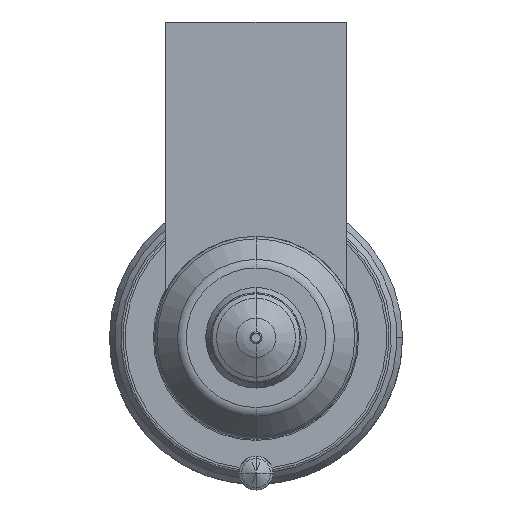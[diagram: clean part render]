
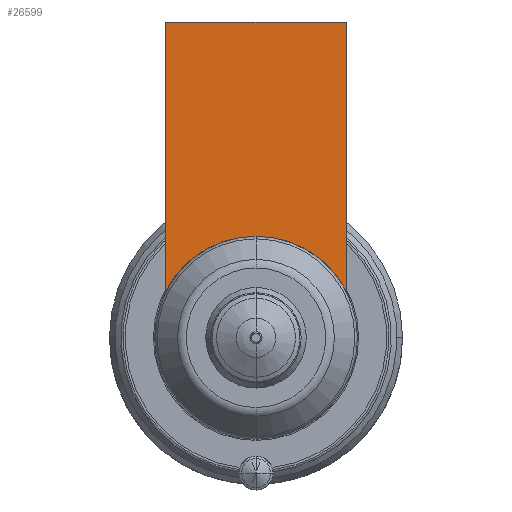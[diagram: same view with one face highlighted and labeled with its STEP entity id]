
A CAD part, front view. The second image highlights one B-rep face of the part: STEP entity #26599.
In plain terms, the highlighted planar face has unit normal (0, -1, 0).
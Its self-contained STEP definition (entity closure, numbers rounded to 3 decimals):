
#25718=DIRECTION('',(1.,0.,0.));
#25719=VECTOR('',#25718,16.);
#25720=CARTESIAN_POINT('',(-8.,-54.,28.));
#25721=LINE('',#25720,#25719);
#25726=CARTESIAN_POINT('',(0.,-54.,0.));
#25727=DIRECTION('',(0.,-1.,0.));
#25728=DIRECTION('',(0.889,0.,0.458));
#25729=AXIS2_PLACEMENT_3D('',#25726,#25727,#25728);
#25734=CARTESIAN_POINT('',(0.,-54.,0.));
#25735=DIRECTION('',(0.,-1.,0.));
#25736=DIRECTION('',(0.,0.,1.));
#25737=AXIS2_PLACEMENT_3D('',#25734,#25735,#25736);
#25763=DIRECTION('',(0.,0.,-1.));
#25764=VECTOR('',#25763,23.877);
#25765=CARTESIAN_POINT('',(-8.,-54.,28.));
#25766=LINE('',#25765,#25764);
#26443=DIRECTION('',(0.,0.,-1.));
#26444=VECTOR('',#26443,23.877);
#26445=CARTESIAN_POINT('',(8.,-54.,28.));
#26446=LINE('',#26445,#26444);
#26496=CARTESIAN_POINT('',(-8.,-54.,28.));
#26497=VERTEX_POINT('',#26496);
#26502=CARTESIAN_POINT('',(8.,-54.,28.));
#26503=VERTEX_POINT('',#26502);
#26506=CARTESIAN_POINT('',(-8.,-54.,4.123));
#26507=VERTEX_POINT('',#26506);
#26510=CARTESIAN_POINT('',(8.,-54.,4.123));
#26511=VERTEX_POINT('',#26510);
#26580=CARTESIAN_POINT('',(0.,-54.,9.));
#26581=VERTEX_POINT('',#26580);
#26582=CARTESIAN_POINT('',(0.,-54.,9.));
#26583=DIRECTION('',(0.,1.,0.));
#26584=DIRECTION('',(0.,0.,-1.));
#26585=AXIS2_PLACEMENT_3D('',#26582,#26583,#26584);
#26586=PLANE('',#26585);
#26588=ORIENTED_EDGE('',*,*,#26587,.F.);
#26590=ORIENTED_EDGE('',*,*,#26589,.T.);
#26592=ORIENTED_EDGE('',*,*,#26591,.T.);
#26594=ORIENTED_EDGE('',*,*,#26593,.T.);
#26596=ORIENTED_EDGE('',*,*,#26595,.T.);
#26597=EDGE_LOOP('',(#26588,#26590,#26592,#26594,#26596));
#26598=FACE_OUTER_BOUND('',#26597,.F.);
#26599=ADVANCED_FACE('',(#26598),#26586,.F.);
#25730=CIRCLE('',#25729,9.);
#25738=CIRCLE('',#25737,9.);
#26587=EDGE_CURVE('',#26497,#26507,#25766,.T.);
#26589=EDGE_CURVE('',#26497,#26503,#25721,.T.);
#26591=EDGE_CURVE('',#26503,#26511,#26446,.T.);
#26593=EDGE_CURVE('',#26511,#26581,#25730,.T.);
#26595=EDGE_CURVE('',#26581,#26507,#25738,.T.);
